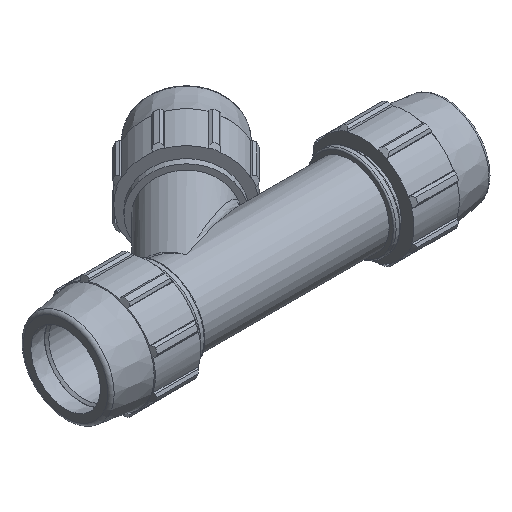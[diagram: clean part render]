
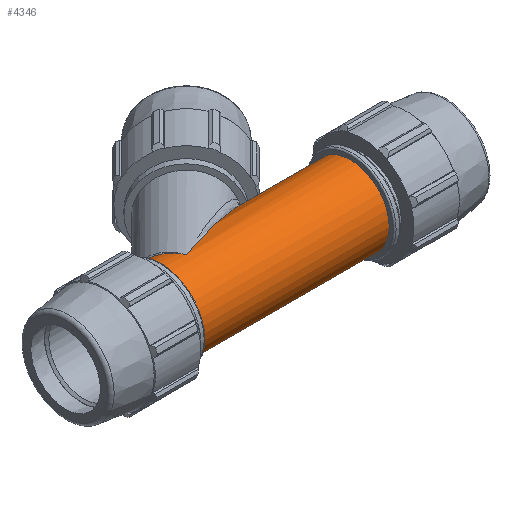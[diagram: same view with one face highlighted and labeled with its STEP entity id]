
A CAD part, isometric view. The second image highlights one B-rep face of the part: STEP entity #4346.
In plain terms, the highlighted cylindrical face has radius 63.386 mm (diameter 126.771 mm), a full revolution.
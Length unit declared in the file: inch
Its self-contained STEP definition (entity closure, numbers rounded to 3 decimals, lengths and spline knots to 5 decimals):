
#22=ELLIPSE('',#4625,7.53444,2.4955);
#24=ELLIPSE('',#4627,2.77764,2.4955);
#43=FACE_BOUND('',#666,.T.);
#147=CIRCLE('',#4645,2.4955);
#148=CIRCLE('',#4646,2.4955);
#149=CIRCLE('',#4647,2.4955);
#150=CIRCLE('',#4648,2.4955);
#334=CYLINDRICAL_SURFACE('',#4644,2.4955);
#442=FACE_OUTER_BOUND('',#665,.T.);
#665=EDGE_LOOP('',(#2967,#2968,#2969,#2970,#2971,#2972));
#666=EDGE_LOOP('',(#2973,#2974));
#935=LINE('',#6870,#1246);
#1246=VECTOR('',#5326,2.4955);
#1673=VERTEX_POINT('',#6782);
#1674=VERTEX_POINT('',#6784);
#1684=VERTEX_POINT('',#6865);
#1685=VERTEX_POINT('',#6866);
#1686=VERTEX_POINT('',#6869);
#1687=VERTEX_POINT('',#6871);
#2172=EDGE_CURVE('',#1673,#1674,#22,.T.);
#2174=EDGE_CURVE('',#1674,#1673,#24,.T.);
#2188=EDGE_CURVE('',#1684,#1685,#147,.T.);
#2189=EDGE_CURVE('',#1685,#1684,#148,.T.);
#2190=EDGE_CURVE('',#1685,#1686,#935,.T.);
#2191=EDGE_CURVE('',#1686,#1687,#149,.T.);
#2192=EDGE_CURVE('',#1687,#1686,#150,.T.);
#2967=ORIENTED_EDGE('',*,*,#2188,.F.);
#2968=ORIENTED_EDGE('',*,*,#2189,.F.);
#2969=ORIENTED_EDGE('',*,*,#2190,.T.);
#2970=ORIENTED_EDGE('',*,*,#2191,.T.);
#2971=ORIENTED_EDGE('',*,*,#2192,.T.);
#2972=ORIENTED_EDGE('',*,*,#2190,.F.);
#2973=ORIENTED_EDGE('',*,*,#2174,.F.);
#2974=ORIENTED_EDGE('',*,*,#2172,.F.);
#4346=ADVANCED_FACE('',(#442,#43),#334,.T.);
#4625=AXIS2_PLACEMENT_3D('',#6785,#5281,#5282);
#4627=AXIS2_PLACEMENT_3D('',#6837,#5285,#5286);
#4644=AXIS2_PLACEMENT_3D('',#6864,#5320,#5321);
#4645=AXIS2_PLACEMENT_3D('',#6867,#5322,#5323);
#4646=AXIS2_PLACEMENT_3D('',#6868,#5324,#5325);
#4647=AXIS2_PLACEMENT_3D('',#6872,#5327,#5328);
#4648=AXIS2_PLACEMENT_3D('',#6873,#5329,#5330);
#5281=DIRECTION('center_axis',(-0.331,0.944,0.));
#5282=DIRECTION('ref_axis',(0.944,0.331,0.));
#5285=DIRECTION('center_axis',(0.898,0.439,0.));
#5286=DIRECTION('ref_axis',(-0.439,0.898,0.));
#5320=DIRECTION('center_axis',(1.,0.,0.));
#5321=DIRECTION('ref_axis',(0.,1.,0.));
#5322=DIRECTION('center_axis',(1.,0.,0.));
#5323=DIRECTION('ref_axis',(0.,0.,-1.));
#5324=DIRECTION('center_axis',(1.,0.,0.));
#5325=DIRECTION('ref_axis',(0.,0.,-1.));
#5326=DIRECTION('',(-1.,0.,0.));
#5327=DIRECTION('center_axis',(1.,0.,0.));
#5328=DIRECTION('ref_axis',(0.,0.,-1.));
#5329=DIRECTION('center_axis',(1.,0.,0.));
#5330=DIRECTION('ref_axis',(0.,0.,-1.));
#6782=CARTESIAN_POINT('',(-4.503,0.,2.4955));
#6784=CARTESIAN_POINT('',(-4.503,0.,-2.4955));
#6785=CARTESIAN_POINT('Origin',(-4.503,0.,0.));
#6837=CARTESIAN_POINT('Origin',(-4.503,0.,0.));
#6864=CARTESIAN_POINT('Origin',(3.05574,0.,0.));
#6865=CARTESIAN_POINT('',(6.11148,2.4955,0.));
#6866=CARTESIAN_POINT('',(6.11148,-2.4955,0.));
#6867=CARTESIAN_POINT('Origin',(6.11148,0.,0.));
#6868=CARTESIAN_POINT('Origin',(6.11148,0.,0.));
#6869=CARTESIAN_POINT('',(-6.11148,-2.4955,0.));
#6870=CARTESIAN_POINT('',(3.05574,-2.4955,0.));
#6871=CARTESIAN_POINT('',(-6.11148,2.4955,0.));
#6872=CARTESIAN_POINT('Origin',(-6.11148,0.,
0.));
#6873=CARTESIAN_POINT('Origin',(-6.11148,0.,
0.));
